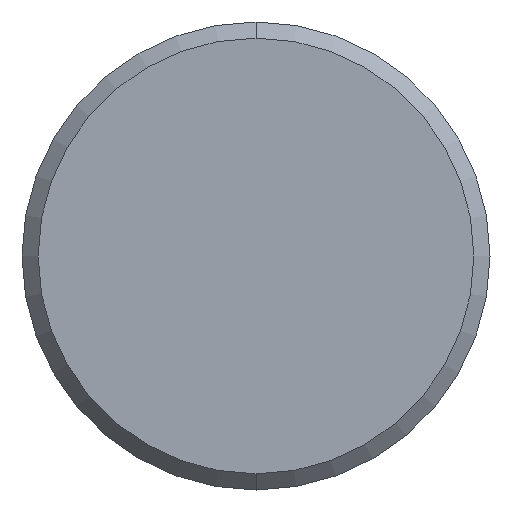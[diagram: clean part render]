
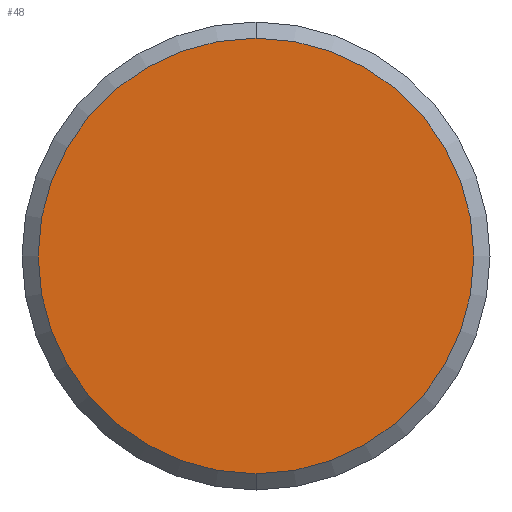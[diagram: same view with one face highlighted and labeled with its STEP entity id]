
A CAD part, left-side view. The second image highlights one B-rep face of the part: STEP entity #48.
In plain terms, the highlighted planar face has unit normal (-1, 0, 0).
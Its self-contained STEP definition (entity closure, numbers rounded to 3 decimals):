
#4 = CARTESIAN_POINT ( 'NONE',  ( 0., 0., 0. ) ) ;
#21 = AXIS2_PLACEMENT_3D ( 'NONE', #129, #471, #89 ) ;
#45 = PLANE ( 'NONE',  #223 ) ;
#48 = ADVANCED_FACE ( 'NONE', ( #277 ), #45, .F. ) ;
#89 = DIRECTION ( 'NONE',  ( 0., 0., -1. ) ) ;
#115 = VERTEX_POINT ( 'NONE', #242 ) ;
#120 = EDGE_CURVE ( 'NONE', #115, #381, #546, .T. ) ;
#129 = CARTESIAN_POINT ( 'NONE',  ( 0., 0., 0. ) ) ;
#223 = AXIS2_PLACEMENT_3D ( 'NONE', #4, #264, #248 ) ;
#242 = CARTESIAN_POINT ( 'NONE',  ( 0., 0., -27. ) ) ;
#248 = DIRECTION ( 'NONE',  ( 0., 0., -1. ) ) ;
#259 = CARTESIAN_POINT ( 'NONE',  ( 0., 0., 0. ) ) ;
#264 = DIRECTION ( 'NONE',  ( 1., 0., 0. ) ) ;
#268 = CIRCLE ( 'NONE', #21, 27. ) ;
#274 = EDGE_CURVE ( 'NONE', #381, #115, #268, .T. ) ;
#277 = FACE_OUTER_BOUND ( 'NONE', #551, .T. ) ;
#318 = AXIS2_PLACEMENT_3D ( 'NONE', #259, #404, #401 ) ;
#381 = VERTEX_POINT ( 'NONE', #481 ) ;
#392 = ORIENTED_EDGE ( 'NONE', *, *, #120, .T. ) ;
#401 = DIRECTION ( 'NONE',  ( 0., 0., -1. ) ) ;
#404 = DIRECTION ( 'NONE',  ( -1., 0., 0. ) ) ;
#471 = DIRECTION ( 'NONE',  ( -1., 0., 0. ) ) ;
#481 = CARTESIAN_POINT ( 'NONE',  ( 0., 0., 27. ) ) ;
#499 = ORIENTED_EDGE ( 'NONE', *, *, #274, .T. ) ;
#546 = CIRCLE ( 'NONE', #318, 27. ) ;
#551 = EDGE_LOOP ( 'NONE', ( #392, #499 ) ) ;
